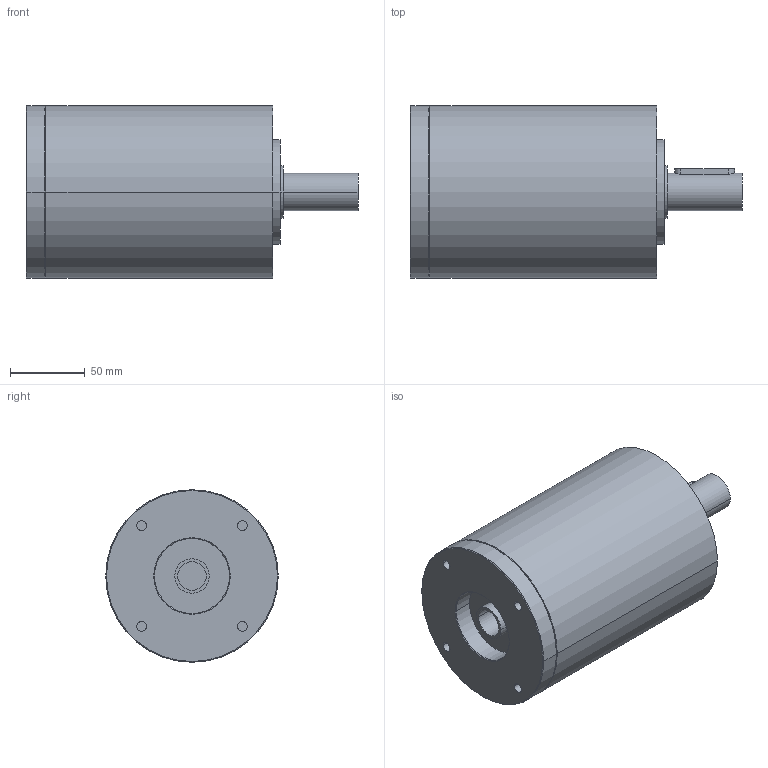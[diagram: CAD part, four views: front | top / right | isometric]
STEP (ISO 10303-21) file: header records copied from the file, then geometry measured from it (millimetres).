
FILE_DESCRIPTION(('CoCreate Modeling STEP Export'),'2;1');
FILE_NAME('GPR125_ig-9-12-16-20-28-35_25_B14_19_P19.stp','2014-08-26T14:10:48',(''),(''),'CoCreate Modeling STEP processor for AP214 (Solid Model)','CoCreate Modeling 16.00C 25-Feb-2009 (C) Parametric Technology GmbH','');
FILE_SCHEMA(('AUTOMOTIVE_DESIGN { 1 0 10303 214 1 1 1 1 }'));
Length unit declared in the file: millimetre
Products named in the file (2): GPR125_ig-9-12-16-20-28-35_25_B14_19_P19
Assembly tree (1 placements, depth 2):
  GPR125_ig-9-12-16-20-28-35_25_B14_19_P19
    GPR125_ig-9-12-16-20-28-35_25_B14_19_P19
Bounding box: 221.4 x 115 x 115 mm (x, y, z)
Volume: 1714163.8 mm3; surface area: 94229 mm2
Topology: 1 solids, 1 shells, 66 faces, 164 edges, 114 vertices
Faces by surface type: cylinder 36, plane 20, cone 10
Entity records: 1675 total; most frequent: ORIENTED_EDGE 324, CARTESIAN_POINT 316, DIRECTION 216, EDGE_CURVE 162, VERTEX_POINT 114, AXIS2_PLACEMENT_3D 82, EDGE_LOOP 82, FACE_OUTER_BOUND 66
